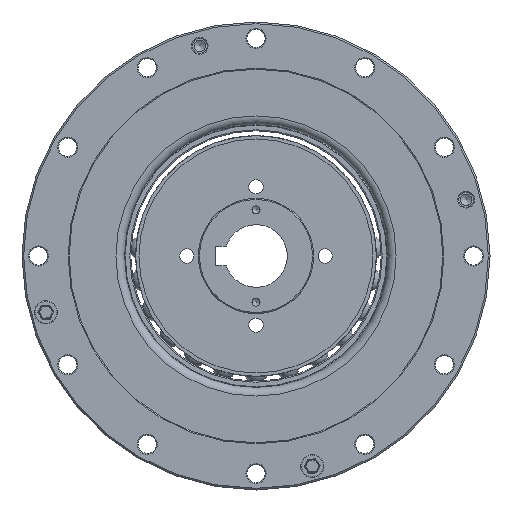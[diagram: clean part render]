
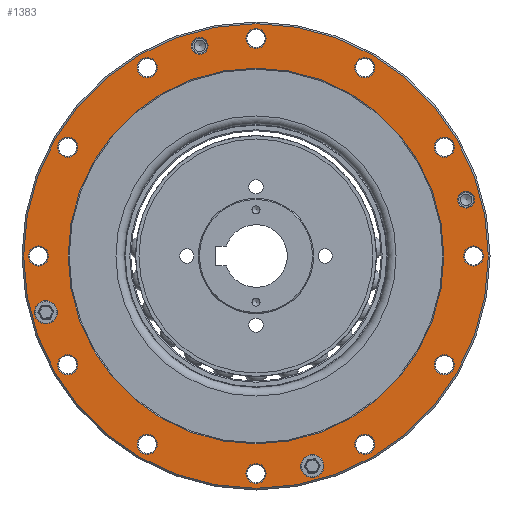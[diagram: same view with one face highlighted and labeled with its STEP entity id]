
A CAD part, front view. The second image highlights one B-rep face of the part: STEP entity #1383.
In plain terms, the highlighted planar face has unit normal (0, -1, 0).
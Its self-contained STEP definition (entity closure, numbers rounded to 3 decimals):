
#913=PLANE('',#8169);
#1383=ADVANCED_FACE('',(#2133,#2134,#2135,#2136,#2137,#2138,#2139,#2140,
#2141,#2142,#2143,#2144,#2145,#2146,#2147,#2148,#2680,#2149),#913,.T.);
#2133=FACE_BOUND('',#3231,.T.);
#2134=FACE_BOUND('',#3232,.T.);
#2135=FACE_BOUND('',#3233,.T.);
#2136=FACE_BOUND('',#3234,.T.);
#2137=FACE_BOUND('',#3235,.T.);
#2138=FACE_BOUND('',#3236,.T.);
#2139=FACE_BOUND('',#3237,.T.);
#2140=FACE_BOUND('',#3238,.T.);
#2141=FACE_BOUND('',#3239,.T.);
#2142=FACE_BOUND('',#3240,.T.);
#2143=FACE_BOUND('',#3241,.T.);
#2144=FACE_BOUND('',#3242,.T.);
#2145=FACE_BOUND('',#3243,.T.);
#2146=FACE_BOUND('',#3244,.T.);
#2147=FACE_BOUND('',#3245,.T.);
#2148=FACE_BOUND('',#3246,.T.);
#2149=FACE_BOUND('',#3248,.T.);
#2680=FACE_OUTER_BOUND('',#3247,.T.);
#3231=EDGE_LOOP('',(#4271));
#3232=EDGE_LOOP('',(#4272));
#3233=EDGE_LOOP('',(#4273));
#3234=EDGE_LOOP('',(#4274));
#3235=EDGE_LOOP('',(#4275));
#3236=EDGE_LOOP('',(#4276));
#3237=EDGE_LOOP('',(#4277));
#3238=EDGE_LOOP('',(#4278));
#3239=EDGE_LOOP('',(#4279));
#3240=EDGE_LOOP('',(#4280));
#3241=EDGE_LOOP('',(#4281));
#3242=EDGE_LOOP('',(#4282));
#3243=EDGE_LOOP('',(#4283));
#3244=EDGE_LOOP('',(#4284));
#3245=EDGE_LOOP('',(#4285));
#3246=EDGE_LOOP('',(#4286));
#3247=EDGE_LOOP('',(#4287));
#3248=EDGE_LOOP('',(#4288));
#4271=ORIENTED_EDGE('',*,*,#6621,.T.);
#4272=ORIENTED_EDGE('',*,*,#6622,.T.);
#4273=ORIENTED_EDGE('',*,*,#6623,.T.);
#4274=ORIENTED_EDGE('',*,*,#6624,.T.);
#4275=ORIENTED_EDGE('',*,*,#6625,.T.);
#4276=ORIENTED_EDGE('',*,*,#6626,.T.);
#4277=ORIENTED_EDGE('',*,*,#6627,.T.);
#4278=ORIENTED_EDGE('',*,*,#6628,.T.);
#4279=ORIENTED_EDGE('',*,*,#6629,.T.);
#4280=ORIENTED_EDGE('',*,*,#6630,.T.);
#4281=ORIENTED_EDGE('',*,*,#6631,.T.);
#4282=ORIENTED_EDGE('',*,*,#6632,.T.);
#4283=ORIENTED_EDGE('',*,*,#6633,.T.);
#4284=ORIENTED_EDGE('',*,*,#6634,.T.);
#4285=ORIENTED_EDGE('',*,*,#6635,.T.);
#4286=ORIENTED_EDGE('',*,*,#6636,.T.);
#4287=ORIENTED_EDGE('',*,*,#6637,.T.);
#4288=ORIENTED_EDGE('',*,*,#6638,.T.);
#5885=VERTEX_POINT('',#12128);
#5886=VERTEX_POINT('',#12130);
#5887=VERTEX_POINT('',#12132);
#5888=VERTEX_POINT('',#12134);
#5889=VERTEX_POINT('',#12136);
#5890=VERTEX_POINT('',#12138);
#5891=VERTEX_POINT('',#12140);
#5892=VERTEX_POINT('',#12142);
#5893=VERTEX_POINT('',#12144);
#5894=VERTEX_POINT('',#12146);
#5895=VERTEX_POINT('',#12148);
#5896=VERTEX_POINT('',#12150);
#5897=VERTEX_POINT('',#12152);
#5898=VERTEX_POINT('',#12154);
#5899=VERTEX_POINT('',#12156);
#5900=VERTEX_POINT('',#12158);
#5901=VERTEX_POINT('',#12160);
#5902=VERTEX_POINT('',#12162);
#6621=EDGE_CURVE('',#5885,#5885,#7446,.T.);
#6622=EDGE_CURVE('',#5886,#5886,#7447,.T.);
#6623=EDGE_CURVE('',#5887,#5887,#7448,.T.);
#6624=EDGE_CURVE('',#5888,#5888,#7449,.T.);
#6625=EDGE_CURVE('',#5889,#5889,#7450,.T.);
#6626=EDGE_CURVE('',#5890,#5890,#7451,.T.);
#6627=EDGE_CURVE('',#5891,#5891,#7452,.T.);
#6628=EDGE_CURVE('',#5892,#5892,#7453,.T.);
#6629=EDGE_CURVE('',#5893,#5893,#7454,.T.);
#6630=EDGE_CURVE('',#5894,#5894,#7455,.T.);
#6631=EDGE_CURVE('',#5895,#5895,#7456,.T.);
#6632=EDGE_CURVE('',#5896,#5896,#7457,.T.);
#6633=EDGE_CURVE('',#5897,#5897,#7458,.T.);
#6634=EDGE_CURVE('',#5898,#5898,#7459,.T.);
#6635=EDGE_CURVE('',#5899,#5899,#7460,.T.);
#6636=EDGE_CURVE('',#5900,#5900,#7461,.T.);
#6637=EDGE_CURVE('',#5901,#5901,#7462,.T.);
#6638=EDGE_CURVE('',#5902,#5902,#7463,.T.);
#7446=CIRCLE('',#8151,3.05);
#7447=CIRCLE('',#8152,2.55);
#7448=CIRCLE('',#8153,3.05);
#7449=CIRCLE('',#8154,3.05);
#7450=CIRCLE('',#8155,2.55);
#7451=CIRCLE('',#8156,3.05);
#7452=CIRCLE('',#8157,3.05);
#7453=CIRCLE('',#8158,3.05);
#7454=CIRCLE('',#8159,2.55);
#7455=CIRCLE('',#8160,3.05);
#7456=CIRCLE('',#8161,3.05);
#7457=CIRCLE('',#8162,3.05);
#7458=CIRCLE('',#8163,3.05);
#7459=CIRCLE('',#8164,3.05);
#7460=CIRCLE('',#8165,3.05);
#7461=CIRCLE('',#8166,2.55);
#7462=CIRCLE('',#8167,70.5);
#7463=CIRCLE('',#8168,57.);
#8151=AXIS2_PLACEMENT_3D('',#12127,#9633,#9634);
#8152=AXIS2_PLACEMENT_3D('',#12129,#9635,#9636);
#8153=AXIS2_PLACEMENT_3D('',#12131,#9637,#9638);
#8154=AXIS2_PLACEMENT_3D('',#12133,#9639,#9640);
#8155=AXIS2_PLACEMENT_3D('',#12135,#9641,#9642);
#8156=AXIS2_PLACEMENT_3D('',#12137,#9643,#9644);
#8157=AXIS2_PLACEMENT_3D('',#12139,#9645,#9646);
#8158=AXIS2_PLACEMENT_3D('',#12141,#9647,#9648);
#8159=AXIS2_PLACEMENT_3D('',#12143,#9649,#9650);
#8160=AXIS2_PLACEMENT_3D('',#12145,#9651,#9652);
#8161=AXIS2_PLACEMENT_3D('',#12147,#9653,#9654);
#8162=AXIS2_PLACEMENT_3D('',#12149,#9655,#9656);
#8163=AXIS2_PLACEMENT_3D('',#12151,#9657,#9658);
#8164=AXIS2_PLACEMENT_3D('',#12153,#9659,#9660);
#8165=AXIS2_PLACEMENT_3D('',#12155,#9661,#9662);
#8166=AXIS2_PLACEMENT_3D('',#12157,#9663,#9664);
#8167=AXIS2_PLACEMENT_3D('',#12159,#9665,#9666);
#8168=AXIS2_PLACEMENT_3D('',#12161,#9667,#9668);
#8169=AXIS2_PLACEMENT_3D('',#12163,#9669,#9670);
#9633=DIRECTION('',(0.,1.,0.));
#9634=DIRECTION('',(1.,0.,0.));
#9635=DIRECTION('',(0.,1.,0.));
#9636=DIRECTION('',(1.,0.,0.));
#9637=DIRECTION('',(0.,1.,0.));
#9638=DIRECTION('',(1.,0.,0.));
#9639=DIRECTION('',(0.,1.,0.));
#9640=DIRECTION('',(1.,0.,0.));
#9641=DIRECTION('',(0.,1.,0.));
#9642=DIRECTION('',(1.,0.,0.));
#9643=DIRECTION('',(0.,1.,0.));
#9644=DIRECTION('',(1.,0.,0.));
#9645=DIRECTION('',(0.,1.,0.));
#9646=DIRECTION('',(1.,0.,0.));
#9647=DIRECTION('',(0.,1.,0.));
#9648=DIRECTION('',(1.,0.,0.));
#9649=DIRECTION('',(0.,1.,0.));
#9650=DIRECTION('',(1.,0.,0.));
#9651=DIRECTION('',(0.,1.,0.));
#9652=DIRECTION('',(1.,0.,0.));
#9653=DIRECTION('',(0.,1.,0.));
#9654=DIRECTION('',(1.,0.,0.));
#9655=DIRECTION('',(0.,1.,0.));
#9656=DIRECTION('',(1.,0.,0.));
#9657=DIRECTION('',(0.,1.,0.));
#9658=DIRECTION('',(1.,0.,0.));
#9659=DIRECTION('',(0.,1.,0.));
#9660=DIRECTION('',(1.,0.,0.));
#9661=DIRECTION('',(0.,1.,0.));
#9662=DIRECTION('',(1.,0.,0.));
#9663=DIRECTION('',(0.,1.,0.));
#9664=DIRECTION('',(1.,0.,0.));
#9665=DIRECTION('',(0.,-1.,0.));
#9666=DIRECTION('',(1.,0.,0.));
#9667=DIRECTION('',(0.,1.,0.));
#9668=DIRECTION('',(-1.,0.,0.));
#9669=DIRECTION('',(0.,-1.,0.));
#9670=DIRECTION('',(1.,0.,0.));
#12127=CARTESIAN_POINT('',(-33.,-42.,57.158));
#12128=CARTESIAN_POINT('',(-29.95,-42.,57.158));
#12129=CARTESIAN_POINT('',(-17.082,-42.,63.751));
#12130=CARTESIAN_POINT('',(-14.532,-42.,63.751));
#12131=CARTESIAN_POINT('',(-57.158,-42.,33.));
#12132=CARTESIAN_POINT('',(-54.108,-42.,33.));
#12133=CARTESIAN_POINT('',(-66.,-42.,0.));
#12134=CARTESIAN_POINT('',(-62.95,-42.,0.));
#12135=CARTESIAN_POINT('',(-63.751,-42.,-17.082));
#12136=CARTESIAN_POINT('',(-61.201,-42.,-17.082));
#12137=CARTESIAN_POINT('',(-57.158,-42.,-33.));
#12138=CARTESIAN_POINT('',(-54.108,-42.,-33.));
#12139=CARTESIAN_POINT('',(-33.,-42.,-57.158));
#12140=CARTESIAN_POINT('',(-29.95,-42.,-57.158));
#12141=CARTESIAN_POINT('',(0.,-42.,-66.));
#12142=CARTESIAN_POINT('',(3.05,-42.,-66.));
#12143=CARTESIAN_POINT('',(17.082,-42.,-63.751));
#12144=CARTESIAN_POINT('',(19.632,-42.,-63.751));
#12145=CARTESIAN_POINT('',(33.,-42.,-57.158));
#12146=CARTESIAN_POINT('',(36.05,-42.,-57.158));
#12147=CARTESIAN_POINT('',(57.158,-42.,-33.));
#12148=CARTESIAN_POINT('',(60.208,-42.,-33.));
#12149=CARTESIAN_POINT('',(66.,-42.,0.));
#12150=CARTESIAN_POINT('',(69.05,-42.,0.));
#12151=CARTESIAN_POINT('',(0.,-42.,66.));
#12152=CARTESIAN_POINT('',(3.05,-42.,66.));
#12153=CARTESIAN_POINT('',(33.,-42.,57.158));
#12154=CARTESIAN_POINT('',(36.05,-42.,57.158));
#12155=CARTESIAN_POINT('',(57.158,-42.,33.));
#12156=CARTESIAN_POINT('',(60.208,-42.,33.));
#12157=CARTESIAN_POINT('',(63.751,-42.,17.082));
#12158=CARTESIAN_POINT('',(66.301,-42.,17.082));
#12159=CARTESIAN_POINT('',(0.,-42.,0.));
#12160=CARTESIAN_POINT('',(70.5,-42.,0.));
#12161=CARTESIAN_POINT('',(0.,-42.,0.));
#12162=CARTESIAN_POINT('',(-57.,-42.,0.));
#12163=CARTESIAN_POINT('',(-71.,-42.,0.));
